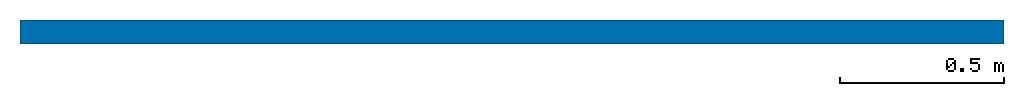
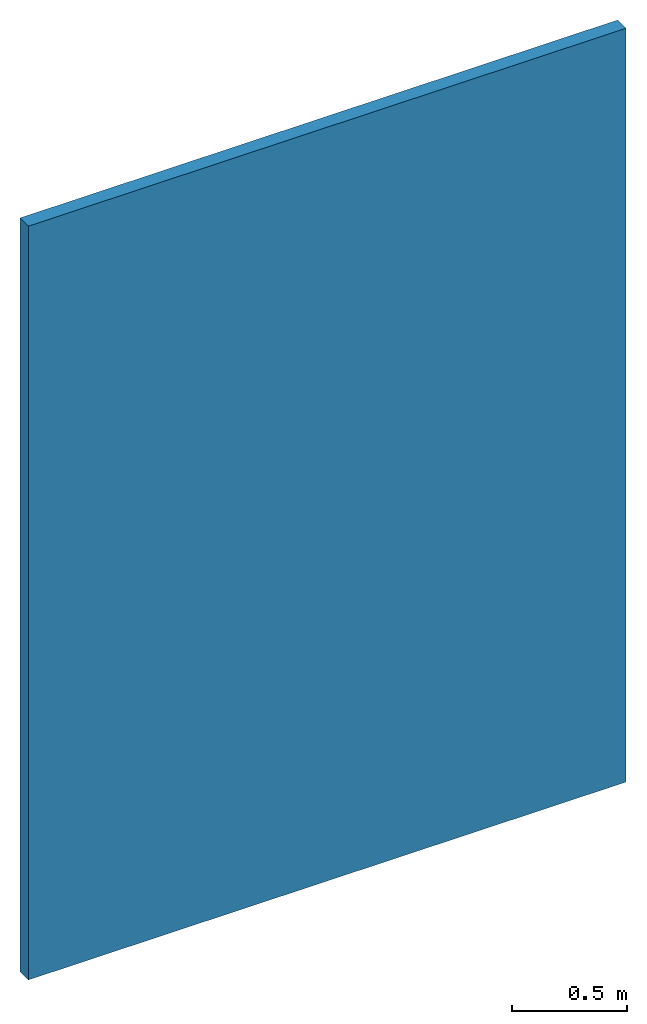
# One storey: 1 wall.
"""IFC2X3 building model written with IfcOpenShell, lengths in millimetres."""

import ifcopenshell
import ifcopenshell.guid

model = None  # the IFC model being written
_history = None  # IfcOwnerHistory: only IFC2X3 demands one
_inside = {}  # id of a spatial element -> (the spatial element, [elements in it])
_under = {}  # id of a project, library or spatial element -> (it, [spatial elements below it])
_declared = {}  # id of a project -> (the project, [libraries it declares])
_typed = {}  # id of a type object -> (the type object, [elements of that type])
_made_of = {}  # id of a material, layer set ... -> (it, [elements and type objects made of it])


def new_model(schema):
    """Start an empty IFC model of exactly this schema.

    Asked for "IFC4X3", IfcOpenShell would pick the latest addendum, in which some entities
    have other attributes; the version numbers below select the first issue.
    IFC2X3 requires an IfcOwnerHistory on every rooted entity: one is made here for all.
    """
    global model, _history
    if schema == "IFC4X3":
        model = ifcopenshell.file(schema_version=(4, 3, 0, 0))
    else:
        model = ifcopenshell.file(schema=schema)
    _inside.clear()
    _under.clear()
    _declared.clear()
    _typed.clear()
    _made_of.clear()
    _history = None
    if model.schema == "IFC2X3":
        org = make("IfcOrganization", Name="unknown")
        user = make(
            "IfcPersonAndOrganization",
            ThePerson=make("IfcPerson", FamilyName="unknown"),
            TheOrganization=org,
        )
        app = make(
            "IfcApplication",
            ApplicationDeveloper=org,
            Version="unknown",
            ApplicationFullName="unknown",
            ApplicationIdentifier="unknown",
        )
        _history = make(
            "IfcOwnerHistory",
            OwningUser=user,
            OwningApplication=app,
            ChangeAction="ADDED",
            CreationDate=0,
        )
    return model


def make(cls, **values):
    """One entity of the class cls with the attributes given. An attribute that is None is left unset."""
    return model.create_entity(
        cls, **{name: value for name, value in values.items() if value is not None}
    )


def entity(cls, *values):
    """Any entity or typed value of the class cls, its attributes in the order of the schema. None: left unset."""
    e = model.create_entity(cls)
    for i, value in enumerate(values):
        if value is not None:
            e[i] = value
    return e


def rooted(cls, **values):
    """An entity with a GlobalId (a new one), such as an element, a storey or a relation."""
    return make(cls, GlobalId=ifcopenshell.guid.new(), OwnerHistory=_history, **values)


def si_unit(unit_type, name, prefix=None):
    """IfcSIUnit, for example si_unit("LENGTHUNIT", "METRE", prefix="MILLI")."""
    return make("IfcSIUnit", UnitType=unit_type, Prefix=prefix, Name=name)


def converted_unit(unit_type, name, factor, base, dimensions=None, offset=None):
    """IfcConversionBasedUnit, such as the inch: factor (a typed value) times the base unit."""
    return make(
        "IfcConversionBasedUnit"
        if offset is None
        else "IfcConversionBasedUnitWithOffset",
        ConversionOffset=offset,
        Dimensions=None
        if dimensions is None
        else entity("IfcDimensionalExponents", *dimensions),
        UnitType=unit_type,
        Name=name,
        ConversionFactor=make(
            "IfcMeasureWithUnit", ValueComponent=factor, UnitComponent=base
        ),
    )


def derived_unit(unit_type, elements):
    """IfcDerivedUnit: a product of units, each with its exponent."""
    return make(
        "IfcDerivedUnit",
        Elements=[
            make("IfcDerivedUnitElement", Unit=unit, Exponent=power)
            for unit, power in elements
        ],
        UnitType=unit_type,
    )


def assignment(units):
    """IfcUnitAssignment: the units of a project."""
    return None if units is None else make("IfcUnitAssignment", Units=units)


def point(xyz):
    """IfcCartesianPoint."""
    return None if xyz is None else make("IfcCartesianPoint", Coordinates=xyz)


def direction(xyz):
    """IfcDirection."""
    return None if xyz is None else make("IfcDirection", DirectionRatios=xyz)


def frame(location, z_axis=None, x_axis=None):
    """IfcAxis2Placement3D, a coordinate frame: its origin and axes. An axis left out is left unset."""
    return make(
        "IfcAxis2Placement3D",
        Location=point(location),
        Axis=direction(z_axis),
        RefDirection=direction(x_axis),
    )


def frame_2d(location, x_axis=None):
    """IfcAxis2Placement2D, a coordinate frame in the plane: its origin and x axis."""
    return make(
        "IfcAxis2Placement2D", Location=point(location), RefDirection=direction(x_axis)
    )


def origin():
    """The frame at (0, 0, 0) with its axes left unset."""
    return frame((0.0, 0.0, 0.0))


def place(relative_to, where):
    """IfcLocalPlacement: puts the frame where relative to a parent placement (None: the world)."""
    return make(
        "IfcLocalPlacement", PlacementRelTo=relative_to, RelativePlacement=where
    )


def context(
    kind, dimensions, precision=None, world=None, true_north=None, identifier=None
):
    """IfcGeometricRepresentationContext, for example the 3D "Model" context."""
    return make(
        "IfcGeometricRepresentationContext",
        ContextIdentifier=identifier,
        ContextType=kind,
        CoordinateSpaceDimension=dimensions,
        Precision=precision,
        WorldCoordinateSystem=world,
        TrueNorth=true_north,
    )


def subcontext(parent, identifier, kind, view, scale=None):
    """IfcGeometricRepresentationSubContext, for example "Body" below "Model"."""
    return make(
        "IfcGeometricRepresentationSubContext",
        ContextIdentifier=identifier,
        ContextType=kind,
        ParentContext=parent,
        TargetScale=scale,
        TargetView=view,
    )


def project(units=None, contexts=None):
    """IfcProject with its units and contexts."""
    return rooted(
        "IfcProject",
        Name="project",
        RepresentationContexts=contexts,
        UnitsInContext=assignment(units),
    )


def spatial(cls, under=None, at=None, **own):
    """A site, building, storey or space (cls), placed at a placement, below another one or the project."""
    s = rooted(cls, ObjectPlacement=at, **own)
    if under is not None:
        _under.setdefault(under.id(), (under, []))[1].append(s)
    return s


def profile(cls, at=None, kind="AREA", **sizes):
    """A parametric profile (cls). Its sizes go by their IFC names, for example OverallWidth=200.0."""
    return make(cls, ProfileType=kind, Position=at, **sizes)


def rectangle(**sizes):
    """IfcRectangleProfileDef."""
    return profile("IfcRectangleProfileDef", **sizes)


def extrude(swept, where, along, depth):
    """IfcExtrudedAreaSolid: the profile swept, set in the frame where, extruded along a direction by depth."""
    return make(
        "IfcExtrudedAreaSolid",
        SweptArea=swept,
        Position=where,
        ExtrudedDirection=direction(along),
        Depth=depth,
    )


def shape(context_of_items, identifier, shape_type, items):
    """IfcShapeRepresentation: the items that make up one representation, for example the "Body"."""
    return make(
        "IfcShapeRepresentation",
        ContextOfItems=context_of_items,
        RepresentationIdentifier=identifier,
        RepresentationType=shape_type,
        Items=items,
    )


def material(Name=None, Category=None):
    """IfcMaterial."""
    return make("IfcMaterial", Name=Name, Category=Category)


def layer(
    of_material, thickness, ventilated=None, Name=None, Category=None, Priority=None
):
    """IfcMaterialLayer: one layer of a wall or slab, of a material (None: an air gap)."""
    return make(
        "IfcMaterialLayer",
        Material=of_material,
        LayerThickness=thickness,
        IsVentilated=ventilated,
        Name=Name,
        Category=Category,
        Priority=Priority,
    )


def layer_set(layers, Name=None):
    """IfcMaterialLayerSet."""
    return make("IfcMaterialLayerSet", MaterialLayers=layers, LayerSetName=Name)


def layer_usage(for_layer_set, set_direction, sense, offset, extent=None):
    """IfcMaterialLayerSetUsage: how a layer set lies in its element."""
    return make(
        "IfcMaterialLayerSetUsage",
        ForLayerSet=for_layer_set,
        LayerSetDirection=set_direction,
        DirectionSense=sense,
        OffsetFromReferenceLine=offset,
        ReferenceExtent=extent,
    )


def made_of(thing, what):
    """Note that an element or type object is made of a material, layer set ...; save() writes the relation."""
    if what is not None:
        _made_of.setdefault(what.id(), (what, []))[1].append(thing)
    return thing


def type_object(cls, material=None, **own):
    """A type object (cls), such as IfcWallType, which elements share."""
    return made_of(rooted(cls, **own), material)


def element(
    cls,
    number,
    at=None,
    inside=None,
    cuts=None,
    type_object=None,
    material=None,
    context=None,
    identifier="Body",
    shape_type=None,
    held_by="IfcProductDefinitionShape",
    body=None,
    shapes=None,
    **own,
):
    """One element of the class cls, such as IfcWall. Its Tag is "e" and its number.

    at: its placement. inside: the storey or other place that contains it. cuts: it is an
    opening in that element (IfcRelVoidsElement). A single representation is given by context,
    identifier, shape_type and body (its items); several are given by shapes. held_by: the class
    of the entity that holds the representations. save() writes the other relations.
    """
    e = rooted(cls, Tag="e%d" % number, ObjectPlacement=at, **own)
    if body is not None:
        shapes = [shape(context, identifier, shape_type, body)]
    if shapes is not None:
        e.Representation = make(held_by, Representations=shapes)
    if inside is not None:
        _inside.setdefault(inside.id(), (inside, []))[1].append(e)
    if cuts is not None:
        rooted(
            "IfcRelVoidsElement", RelatingBuildingElement=cuts, RelatedOpeningElement=e
        )
    if type_object is not None:
        _typed.setdefault(type_object.id(), (type_object, []))[1].append(e)
    return made_of(e, material)


def aggregate(whole, parts):
    """IfcRelAggregates: a whole, such as a stair, and the parts it consists of."""
    return rooted("IfcRelAggregates", RelatingObject=whole, RelatedObjects=parts)


def save(model, path):
    """Write the relations noted so far, then the file.

    IfcRelAggregates (storeys below a building ...), IfcRelContainedInSpatialStructure (elements
    in a storey), IfcRelDefinesByType, IfcRelAssociatesMaterial and IfcRelDeclares: one each for
    every whole, place, type object, material and project.
    """
    for whole, parts in _under.values():
        aggregate(whole, parts)
    for where, things in _inside.values():
        rooted(
            "IfcRelContainedInSpatialStructure",
            RelatedElements=things,
            RelatingStructure=where,
        )
    for kind, things in _typed.values():
        rooted("IfcRelDefinesByType", RelatedObjects=things, RelatingType=kind)
    for what, things in _made_of.values():
        rooted("IfcRelAssociatesMaterial", RelatedObjects=things, RelatingMaterial=what)
    for by, libraries in _declared.values():
        rooted("IfcRelDeclares", RelatingContext=by, RelatedDefinitions=libraries)
    model.write(path)


model = new_model("IFC2X3")

# Units and contexts
model_context = context("Model", 3, precision=0.01, world=origin(), true_north=direction((6.12303176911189e-17, 1.0)))
body_context = subcontext(model_context, "Body", "Model", "MODEL_VIEW")
ifc_project = project(units=[si_unit("LENGTHUNIT", "METRE", prefix="MILLI"), si_unit("AREAUNIT", "SQUARE_METRE"), si_unit("VOLUMEUNIT", "CUBIC_METRE"), converted_unit("PLANEANGLEUNIT", "DEGREE", entity("IfcRatioMeasure", 0.0174532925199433), si_unit("PLANEANGLEUNIT", "RADIAN"), dimensions=[0, 0, 0, 0, 0, 0, 0]), si_unit("MASSUNIT", "GRAM", prefix="KILO"), si_unit("TIMEUNIT", "SECOND"), si_unit("FREQUENCYUNIT", "HERTZ"), si_unit("THERMODYNAMICTEMPERATUREUNIT", "DEGREE_CELSIUS"), derived_unit("THERMALTRANSMITTANCEUNIT", [(si_unit("MASSUNIT", "GRAM", prefix="KILO"), 1), (si_unit("THERMODYNAMICTEMPERATUREUNIT", "KELVIN"), -1), (si_unit("TIMEUNIT", "SECOND"), -3)]), derived_unit("VOLUMETRICFLOWRATEUNIT", [(si_unit("LENGTHUNIT", "METRE"), 3), (si_unit("TIMEUNIT", "SECOND"), -1)]), si_unit("ELECTRICCURRENTUNIT", "AMPERE"), si_unit("ELECTRICVOLTAGEUNIT", "VOLT"), si_unit("POWERUNIT", "WATT"), si_unit("FORCEUNIT", "NEWTON", prefix="KILO"), si_unit("ILLUMINANCEUNIT", "LUX"), si_unit("LUMINOUSFLUXUNIT", "LUMEN"), si_unit("LUMINOUSINTENSITYUNIT", "CANDELA"), derived_unit("USERDEFINED", [(si_unit("MASSUNIT", "GRAM", prefix="KILO"), -1), (si_unit("LENGTHUNIT", "METRE"), -2), (si_unit("TIMEUNIT", "SECOND"), 3), (si_unit("LUMINOUSFLUXUNIT", "LUMEN"), 1)]), derived_unit("LINEARVELOCITYUNIT", [(si_unit("LENGTHUNIT", "METRE"), 1), (si_unit("TIMEUNIT", "SECOND"), -1)]), si_unit("PRESSUREUNIT", "PASCAL"), derived_unit("USERDEFINED", [(si_unit("LENGTHUNIT", "METRE"), -2), (si_unit("MASSUNIT", "GRAM", prefix="KILO"), 1), (si_unit("TIMEUNIT", "SECOND"), -2)])], contexts=[model_context])

# Site, building, storey
site_placement = place(None, origin())
site = spatial("IfcSite", under=ifc_project, at=site_placement, Name="Default", CompositionType="ELEMENT")
building_placement = place(site_placement, origin())
building = spatial("IfcBuilding", under=site, at=building_placement, CompositionType="ELEMENT")
storey_placement = place(building_placement, origin())
storey = spatial("IfcBuildingStorey", under=building, at=storey_placement, Name="Уровень 1", CompositionType="ELEMENT", Elevation=0.0)

# Wall
ifc_material_1 = material(Name="Аквапанель")
ifc_layer_1 = layer(ifc_material_1, 12.5)
ifc_material_2 = material(Name="Luft")
ifc_layer_2 = layer(ifc_material_2, 10.0)
ifc_material_3 = material(Name="КНАУФ-профиль+мин.вата 50@600mm")
ifc_layer_3 = layer(ifc_material_3, 50.0)
ifc_layer_set = layer_set([ifc_layer_1, ifc_layer_2, ifc_layer_3], Name="Базовая стена:Облицовка КНАУФ С683 Применение внутри здания ПП60/27 ПН28х27 с однослойной облицовкой Аквапанель 12.5")
ifc_layer_usage = layer_usage(ifc_layer_set, "AXIS2", "NEGATIVE", 36.25)
wall_type = type_object("IfcWallType", Name="Базовая стена:Облицовка КНАУФ С683 Применение внутри здания ПП60/27 ПН28х27 с однослойной облицовкой Аквапанель 12.5", PredefinedType="STANDARD", material=ifc_layer_set)
wall_placement = place(storey_placement, frame((2442.99664901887, 689.484692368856, 0.0)))
element("IfcWallStandardCase", 1, at=wall_placement, inside=storey, type_object=wall_type, material=ifc_layer_usage, Name="Базовая стена:Облицовка КНАУФ С683 Применение внутри здания ПП60/27 ПН28х27 с однослойной облицовкой Аквапанель 12.5", ObjectType="Базовая стена:Облицовка КНАУФ С683 Применение внутри здания ПП60/27 ПН28х27 с однослойной облицовкой Аквапанель 12.5", context=body_context, shape_type="SweptSolid", body=[
    extrude(rectangle(XDim=3000.0, YDim=72.5, at=frame_2d((1500.0, 0.0), x_axis=(-1.0, 0.0))), origin(), (0.0, 0.0, 1.0), 4000.0),
])

save(model, "model.ifc")
